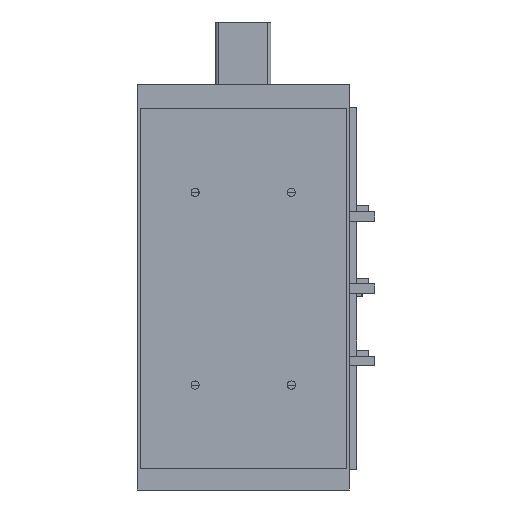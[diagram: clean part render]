
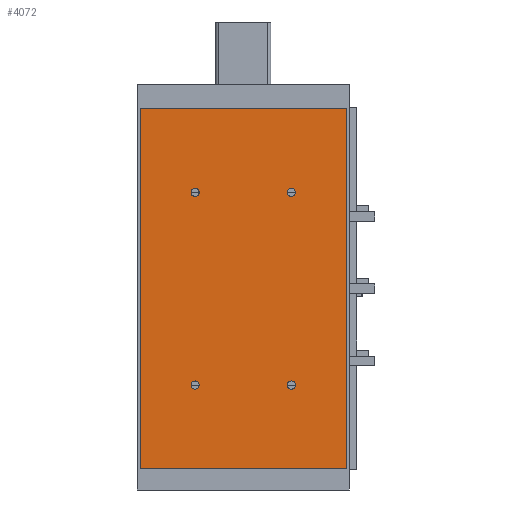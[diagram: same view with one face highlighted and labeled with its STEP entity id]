
A CAD part, front view. The second image highlights one B-rep face of the part: STEP entity #4072.
In plain terms, the highlighted planar face has unit normal (0, -1, 0).
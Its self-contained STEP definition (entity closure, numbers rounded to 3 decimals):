
#3162=CARTESIAN_POINT('',(-107.,0.0,374.0));
#3163=VERTEX_POINT('',#3162);
#3170=CARTESIAN_POINT('',(107.,0.0,374.0));
#3171=VERTEX_POINT('',#3170);
#3172=CARTESIAN_POINT('',(107.,0.0,374.0));
#3173=DIRECTION('',(-1.0,0.0,0.0));
#3174=VECTOR('',#3173,214.);
#3175=LINE('',#3172,#3174);
#3176=EDGE_CURVE('',#3171,#3163,#3175,.T.);
#3506=CARTESIAN_POINT('',(107.,0.0,0.0));
#3507=VERTEX_POINT('',#3506);
#3514=CARTESIAN_POINT('',(-107.,0.0,0.0));
#3515=VERTEX_POINT('',#3514);
#3516=CARTESIAN_POINT('',(-107.,0.0,0.0));
#3517=DIRECTION('',(1.0,0.0,0.0));
#3518=VECTOR('',#3517,214.);
#3519=LINE('',#3516,#3518);
#3520=EDGE_CURVE('',#3515,#3507,#3519,.T.);
#3626=CARTESIAN_POINT('',(45.751,0.0,87.0));
#3627=VERTEX_POINT('',#3626);
#3628=CARTESIAN_POINT('',(50.001,0.0,87.0));
#3629=DIRECTION('',(0.0,1.0,0.0));
#3630=DIRECTION('',(1.0,0.0,0.0));
#3631=AXIS2_PLACEMENT_3D('',#3628,#3629,#3630);
#3632=CIRCLE('',#3631,4.25);
#3633=EDGE_CURVE('',#3627,#3627,#3632,.T.);
#3667=CARTESIAN_POINT('',(-54.249,0.0,87.0));
#3668=VERTEX_POINT('',#3667);
#3669=CARTESIAN_POINT('',(-49.999,0.0,87.0));
#3670=DIRECTION('',(0.0,1.0,0.0));
#3671=DIRECTION('',(1.0,0.0,0.0));
#3672=AXIS2_PLACEMENT_3D('',#3669,#3670,#3671);
#3673=CIRCLE('',#3672,4.25);
#3674=EDGE_CURVE('',#3668,#3668,#3673,.T.);
#3846=CARTESIAN_POINT('',(45.751,0.0,287.));
#3847=VERTEX_POINT('',#3846);
#3848=CARTESIAN_POINT('',(50.001,0.0,287.));
#3849=DIRECTION('',(0.0,1.0,0.0));
#3850=DIRECTION('',(1.0,0.0,0.0));
#3851=AXIS2_PLACEMENT_3D('',#3848,#3849,#3850);
#3852=CIRCLE('',#3851,4.25);
#3853=EDGE_CURVE('',#3847,#3847,#3852,.T.);
#3956=CARTESIAN_POINT('',(-54.249,0.0,287.));
#3957=VERTEX_POINT('',#3956);
#3958=CARTESIAN_POINT('',(-49.999,0.0,287.));
#3959=DIRECTION('',(0.0,1.0,0.0));
#3960=DIRECTION('',(1.0,0.0,0.0));
#3961=AXIS2_PLACEMENT_3D('',#3958,#3959,#3960);
#3962=CIRCLE('',#3961,4.25);
#3963=EDGE_CURVE('',#3957,#3957,#3962,.T.);
#3983=CARTESIAN_POINT('',(107.,0.0,0.0));
#3984=DIRECTION('',(0.0,0.0,1.0));
#3985=VECTOR('',#3984,374.0);
#3986=LINE('',#3983,#3985);
#3987=EDGE_CURVE('',#3507,#3171,#3986,.T.);
#4005=CARTESIAN_POINT('',(-107.,0.0,0.0));
#4006=DIRECTION('',(0.0,0.0,1.0));
#4007=VECTOR('',#4006,374.0);
#4008=LINE('',#4005,#4007);
#4009=EDGE_CURVE('',#3515,#3163,#4008,.T.);
#4049=CARTESIAN_POINT('',(107.,0.0,0.0));
#4050=DIRECTION('',(0.0,-1.0,0.0));
#4051=DIRECTION('',(0.0,0.0,-1.0));
#4052=AXIS2_PLACEMENT_3D('',#4049,#4050,#4051);
#4053=PLANE('',#4052);
#4054=ORIENTED_EDGE('',*,*,#3176,.T.);
#4055=ORIENTED_EDGE('',*,*,#4009,.F.);
#4056=ORIENTED_EDGE('',*,*,#3520,.T.);
#4057=ORIENTED_EDGE('',*,*,#3987,.T.);
#4058=EDGE_LOOP('',(#4054,#4055,#4056,#4057));
#4059=FACE_OUTER_BOUND('',#4058,.T.);
#4060=ORIENTED_EDGE('',*,*,#3633,.T.);
#4061=EDGE_LOOP('',(#4060));
#4062=FACE_BOUND('',#4061,.T.);
#4063=ORIENTED_EDGE('',*,*,#3674,.T.);
#4064=EDGE_LOOP('',(#4063));
#4065=FACE_BOUND('',#4064,.T.);
#4066=ORIENTED_EDGE('',*,*,#3853,.T.);
#4067=EDGE_LOOP('',(#4066));
#4068=FACE_BOUND('',#4067,.T.);
#4069=ORIENTED_EDGE('',*,*,#3963,.T.);
#4070=EDGE_LOOP('',(#4069));
#4071=FACE_BOUND('',#4070,.T.);
#4072=ADVANCED_FACE('',(#4059,#4062,#4065,#4068,#4071),#4053,.T.);
